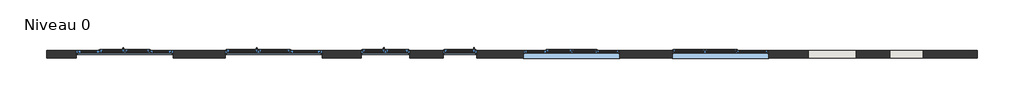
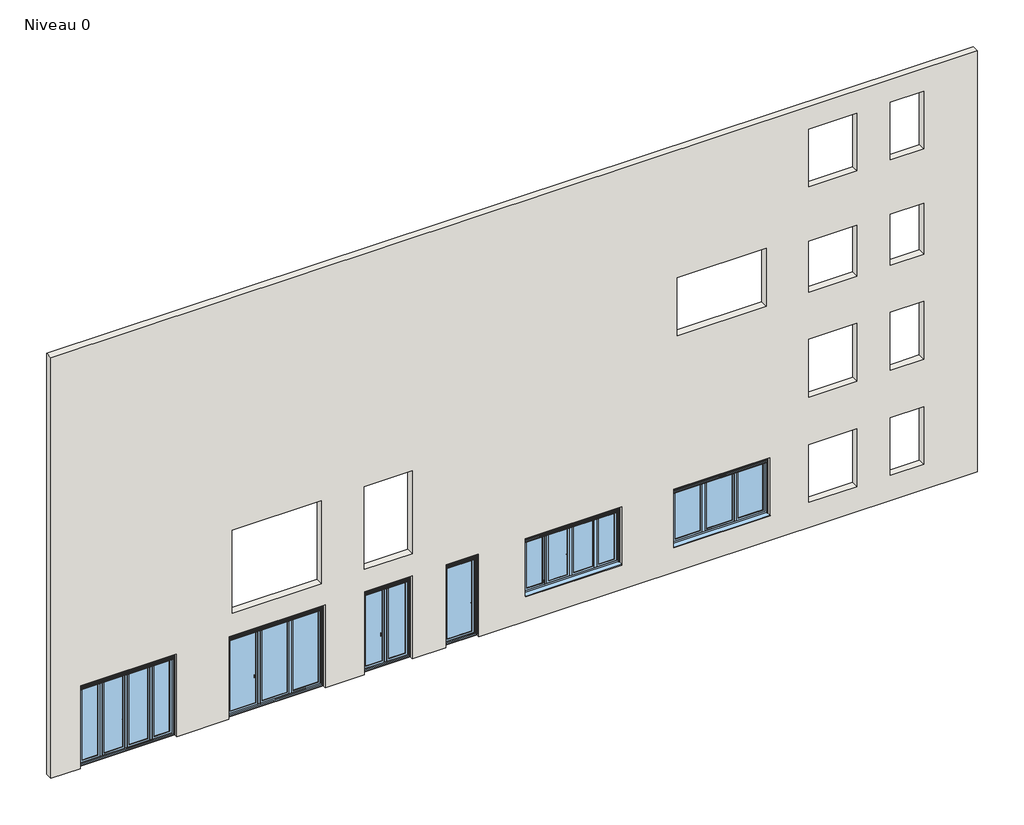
# One storey: 6 windows, 1 wall.
"""IFC4 building model written with IfcOpenShell, lengths in millimetres."""

from ifc_helpers import new_model, si_unit, frame, origin, place, context, project, spatial, polyline, outline, extrude, transform, mapped, element, save
from components import window_a7aff2f7, window_6b0d1190, window_2f7a2a9f, window_d9ff698f, window_21_pf1_enr_pvc_alu_96f1f04a, window_22_pf2_enr_pvc_alu_eefa80e3

model = new_model("IFC4")

# Units and contexts
model_context = context("Model", 3, world=origin())
ifc_project = project(units=[si_unit("LENGTHUNIT", "METRE", prefix="MILLI")], contexts=[model_context])

# Site, building, storey
site = spatial("IfcSite", under=ifc_project)
building = spatial("IfcBuilding", under=site)
storey = spatial("IfcBuildingStorey", under=building, Name="Niveau 0", Elevation=0.0)

# Wall
placement = place(None, origin())
element("IfcWall", 1, ObjectType="Générique - Ext. 200 mm", at=placement, inside=storey, context=model_context, shape_type="SweptSolid", body=[
    extrude(outline(polyline([(0.0, -2269.1701575), (12000.0, -2269.1701575), (12000.0, -27269.1701575), (0.0, -27269.1701575), (0.0, -26469.1701575), (2360.0, -26469.1701575), (2360.0, -23869.1701575), (0.0, -23869.1701575), (0.0, -22469.1701575), (2360.0, -22469.1701575), (2360.0, -19869.1701575), (0.0, -19869.1701575), (0.0, -18819.1701575), (2360.0, -18819.1701575), (2360.0, -17519.1701575), (0.0, -17519.1701575), (0.0, -16619.1701575), (2360.0, -16619.1701575), (2360.0, -15719.1701575), (0.0, -15719.1701575), (0.0, -2269.1701575)]), holes=[polyline([(710.0, -3719.1701575), (710.0, -4619.1701575), (2360.0, -4619.1701575), (2360.0, -3719.1701575), (710.0, -3719.1701575)]), polyline([(710.0, -5519.1701575), (710.0, -6819.1701575), (2360.0, -6819.1701575), (2360.0, -5519.1701575), (710.0, -5519.1701575)]), polyline([(3710.0, -3719.1701575), (3710.0, -4619.1701575), (5360.0, -4619.1701575), (5360.0, -3719.1701575), (3710.0, -3719.1701575)]), polyline([(710.0, -7869.1701575), (710.0, -10469.1701575), (2360.0, -10469.1701575), (2360.0, -7869.1701575), (710.0, -7869.1701575)]), polyline([(3710.0, -5519.1701575), (3710.0, -6819.1701575), (5360.0, -6819.1701575), (5360.0, -5519.1701575), (3710.0, -5519.1701575)]), polyline([(6710.0, -3719.1701575), (6710.0, -4619.1701575), (8160.0, -4619.1701575), (8160.0, -3719.1701575), (6710.0, -3719.1701575)]), polyline([(6710.0, -5519.1701575), (6710.0, -6819.1701575), (8160.0, -6819.1701575), (8160.0, -5519.1701575), (6710.0, -5519.1701575)]), polyline([(6710.0, -7969.1701575), (6710.0, -10369.1701575), (8360.0, -10369.1701575), (8360.0, -7969.1701575), (6710.0, -7969.1701575)]), polyline([(710.0, -11869.1701575), (710.0, -14469.1701575), (2360.0, -14469.1701575), (2360.0, -11869.1701575), (710.0, -11869.1701575)]), polyline([(9710.0, -3719.1701575), (9710.0, -4619.1701575), (11360.0, -4619.1701575), (11360.0, -3719.1701575), (9710.0, -3719.1701575)]), polyline([(9710.0, -5519.1701575), (9710.0, -6819.1701575), (11360.0, -6819.1701575), (11360.0, -5519.1701575), (9710.0, -5519.1701575)]), polyline([(5360.0, -17519.1701575), (3000.0, -17519.1701575), (3000.0, -18819.1701575), (5360.0, -18819.1701575), (5360.0, -17519.1701575)]), polyline([(5360.0, -19969.1701575), (3000.0, -19969.1701575), (3000.0, -22369.1701575), (5360.0, -22369.1701575), (5360.0, -19969.1701575)])]), frame((0.0, 65.9072991, 0.0), z_axis=(0.0, 1.0, 0.0), x_axis=(0.0, 0.0, 1.0)), (0.0, 0.0, 1.0), 200.0),
])

# Windows
window_shape = window_a7aff2f7(model_context)
element("IfcWindow", 2, ObjectType="4. OF2 + Fixe à G ENR PVC-ALU : 260X165 (LXH) cm", at=placement, inside=storey, context=model_context, shape_type="MappedRepresentation", body=[
    mapped(window_shape, transform((-9169.1701575, 165.9072991, -90.0), x_axis=(-1.0, 0.0, 0.0), y_axis=(0.0, -1.0, 0.0), z_axis=(0.0, 0.0, 1.0))),
])
window_2_shape = window_6b0d1190(model_context)
element("IfcWindow", 3, ObjectType="9. OF2 + 2 Fixes à G et à D ENR PVC-ALU : 260X165 (LXH) cm", at=placement, inside=storey, context=model_context, shape_type="MappedRepresentation", body=[
    mapped(window_2_shape, transform((-13169.1701575, 165.9072991, -90.0), x_axis=(-1.0, 0.0, 0.0), y_axis=(0.0, -1.0, 0.0), z_axis=(0.0, 0.0, 1.0))),
])
window_3_shape = window_2f7a2a9f(model_context)
element("IfcWindow", 4, ObjectType="24. PF2 + Fixe à G ENR PVC-ALU : 260X236 (LXH) cm", at=placement, inside=storey, context=model_context, shape_type="MappedRepresentation", body=[
    mapped(window_3_shape, transform((-21169.1701575, 165.9072991, 0.0), x_axis=(-1.0, 0.0, 0.0), y_axis=(0.0, -1.0, 0.0), z_axis=(0.0, 0.0, 1.0))),
])
window_4_shape = window_d9ff698f(model_context)
element("IfcWindow", 5, ObjectType="26. PF2 + 2 Fixes à G et à D ENR PVC-ALU : 260X236 (LXH) cm", at=placement, inside=storey, context=model_context, shape_type="MappedRepresentation", body=[
    mapped(window_4_shape, transform((-25169.1701575, 165.9072991, 0.0), x_axis=(-1.0, 0.0, 0.0), y_axis=(0.0, -1.0, 0.0), z_axis=(0.0, 0.0, 1.0))),
])
window_21_pf1_enr_pvc_alu_shape = window_21_pf1_enr_pvc_alu_96f1f04a(model_context)
element("IfcWindow", 6, ObjectType="21. PF1 ENR PVC-ALU : 130X236 (LXH) cm", at=placement, inside=storey, context=model_context, shape_type="MappedRepresentation", body=[
    mapped(window_21_pf1_enr_pvc_alu_shape, transform((-16169.1701575, 165.9072991, 0.0), x_axis=(-1.0, 0.0, 0.0), y_axis=(0.0, -1.0, 0.0), z_axis=(0.0, 0.0, 1.0))),
])
window_22_pf2_enr_pvc_alu_shape = window_22_pf2_enr_pvc_alu_eefa80e3(model_context)
element("IfcWindow", 7, ObjectType="22. PF2 ENR PVC-ALU : 130X236 (LXH) cm", at=placement, inside=storey, context=model_context, shape_type="MappedRepresentation", body=[
    mapped(window_22_pf2_enr_pvc_alu_shape, transform((-18169.1701575, 165.9072991, 0.0), x_axis=(-1.0, 0.0, 0.0), y_axis=(0.0, -1.0, 0.0), z_axis=(0.0, 0.0, 1.0))),
])

save(model, "model.ifc")
